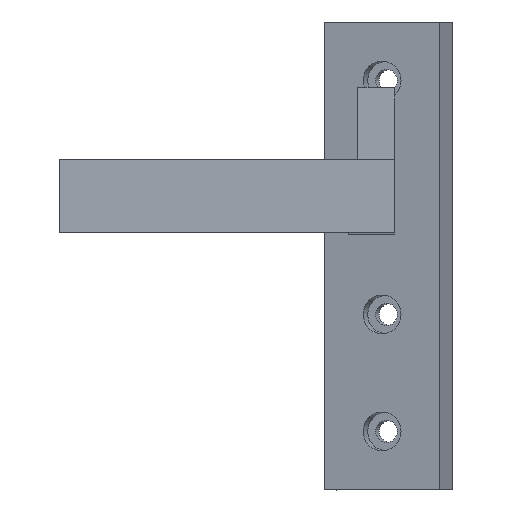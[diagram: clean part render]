
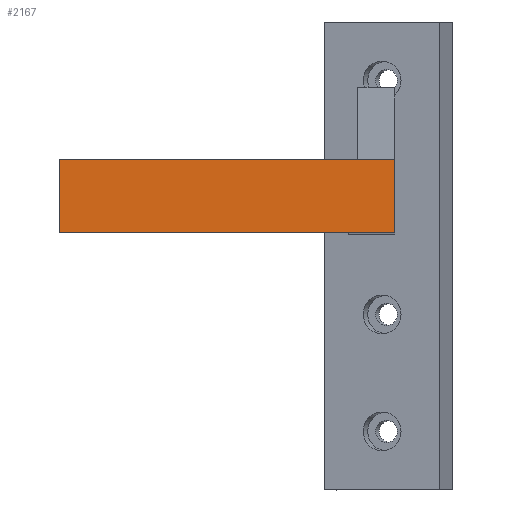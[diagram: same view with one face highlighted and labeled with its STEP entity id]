
A CAD part, top view. The second image highlights one B-rep face of the part: STEP entity #2167.
In plain terms, the highlighted planar face has unit normal (0, 0, 1).
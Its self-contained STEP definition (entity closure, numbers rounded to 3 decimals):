
#632 = PLANE('',#633);
#633 = AXIS2_PLACEMENT_3D('',#634,#635,#636);
#634 = CARTESIAN_POINT('',(0.5,26.2,-180.2));
#635 = DIRECTION('',(0.,1.,0.));
#636 = DIRECTION('',(0.,0.,1.));
#684 = PLANE('',#685);
#685 = AXIS2_PLACEMENT_3D('',#686,#687,#688);
#686 = CARTESIAN_POINT('',(0.5,42.2,-180.2));
#687 = DIRECTION('',(0.,1.,0.));
#688 = DIRECTION('',(0.,0.,1.));
#708 = PLANE('',#709);
#709 = AXIS2_PLACEMENT_3D('',#710,#711,#712);
#710 = CARTESIAN_POINT('',(10.5,26.2,-180.2));
#711 = DIRECTION('',(1.,0.,0.));
#712 = DIRECTION('',(0.,0.,1.));
#1088 = VERTEX_POINT('',#1089);
#1089 = CARTESIAN_POINT('',(10.5,26.2,21.675));
#1331 = VERTEX_POINT('',#1332);
#1332 = CARTESIAN_POINT('',(-62.364,26.2,
    21.675));
#1346 = PLANE('',#1347);
#1347 = AXIS2_PLACEMENT_3D('',#1348,#1349,#1350);
#1348 = CARTESIAN_POINT('',(-62.364,26.2,
    17.675));
#1349 = DIRECTION('',(1.,0.,0.));
#1350 = DIRECTION('',(0.,0.,1.));
#1358 = EDGE_CURVE('',#1088,#1331,#1359,.T.);
#1359 = SURFACE_CURVE('',#1360,(#1364,#1371),.PCURVE_S1.);
#1360 = LINE('',#1361,#1362);
#1361 = CARTESIAN_POINT('',(10.5,26.2,21.675));
#1362 = VECTOR('',#1363,1.);
#1363 = DIRECTION('',(-1.,0.,0.));
#1364 = PCURVE('',#632,#1365);
#1365 = DEFINITIONAL_REPRESENTATION('',(#1366),#1370);
#1366 = LINE('',#1367,#1368);
#1367 = CARTESIAN_POINT('',(201.875,10.));
#1368 = VECTOR('',#1369,1.);
#1369 = DIRECTION('',(0.,-1.));
#1370 = ( GEOMETRIC_REPRESENTATION_CONTEXT(2) 
PARAMETRIC_REPRESENTATION_CONTEXT() REPRESENTATION_CONTEXT('2D SPACE',''
  ) );
#1371 = PCURVE('',#1372,#1377);
#1372 = PLANE('',#1373);
#1373 = AXIS2_PLACEMENT_3D('',#1374,#1375,#1376);
#1374 = CARTESIAN_POINT('',(0.5,26.2,21.675));
#1375 = DIRECTION('',(0.,0.,1.));
#1376 = DIRECTION('',(1.,0.,0.));
#1377 = DEFINITIONAL_REPRESENTATION('',(#1378),#1382);
#1378 = LINE('',#1379,#1380);
#1379 = CARTESIAN_POINT('',(10.,0.));
#1380 = VECTOR('',#1381,1.);
#1381 = DIRECTION('',(-1.,0.));
#1382 = ( GEOMETRIC_REPRESENTATION_CONTEXT(2) 
PARAMETRIC_REPRESENTATION_CONTEXT() REPRESENTATION_CONTEXT('2D SPACE',''
  ) );
#1390 = VERTEX_POINT('',#1391);
#1391 = CARTESIAN_POINT('',(10.5,42.2,21.675));
#1412 = EDGE_CURVE('',#1088,#1390,#1413,.T.);
#1413 = SURFACE_CURVE('',#1414,(#1418,#1425),.PCURVE_S1.);
#1414 = LINE('',#1415,#1416);
#1415 = CARTESIAN_POINT('',(10.5,26.2,21.675));
#1416 = VECTOR('',#1417,1.);
#1417 = DIRECTION('',(0.,1.,0.));
#1418 = PCURVE('',#708,#1419);
#1419 = DEFINITIONAL_REPRESENTATION('',(#1420),#1424);
#1420 = LINE('',#1421,#1422);
#1421 = CARTESIAN_POINT('',(201.875,0.));
#1422 = VECTOR('',#1423,1.);
#1423 = DIRECTION('',(0.,-1.));
#1424 = ( GEOMETRIC_REPRESENTATION_CONTEXT(2) 
PARAMETRIC_REPRESENTATION_CONTEXT() REPRESENTATION_CONTEXT('2D SPACE',''
  ) );
#1425 = PCURVE('',#1372,#1426);
#1426 = DEFINITIONAL_REPRESENTATION('',(#1427),#1431);
#1427 = LINE('',#1428,#1429);
#1428 = CARTESIAN_POINT('',(10.,0.));
#1429 = VECTOR('',#1430,1.);
#1430 = DIRECTION('',(0.,1.));
#1431 = ( GEOMETRIC_REPRESENTATION_CONTEXT(2) 
PARAMETRIC_REPRESENTATION_CONTEXT() REPRESENTATION_CONTEXT('2D SPACE',''
  ) );
#1800 = VERTEX_POINT('',#1801);
#1801 = CARTESIAN_POINT('',(-62.364,42.2,
    21.675));
#1822 = EDGE_CURVE('',#1800,#1390,#1823,.T.);
#1823 = SURFACE_CURVE('',#1824,(#1828,#1835),.PCURVE_S1.);
#1824 = LINE('',#1825,#1826);
#1825 = CARTESIAN_POINT('',(-62.364,42.2,
    21.675));
#1826 = VECTOR('',#1827,1.);
#1827 = DIRECTION('',(1.,0.,0.));
#1828 = PCURVE('',#684,#1829);
#1829 = DEFINITIONAL_REPRESENTATION('',(#1830),#1834);
#1830 = LINE('',#1831,#1832);
#1831 = CARTESIAN_POINT('',(201.875,-62.864));
#1832 = VECTOR('',#1833,1.);
#1833 = DIRECTION('',(0.,1.));
#1834 = ( GEOMETRIC_REPRESENTATION_CONTEXT(2) 
PARAMETRIC_REPRESENTATION_CONTEXT() REPRESENTATION_CONTEXT('2D SPACE',''
  ) );
#1835 = PCURVE('',#1372,#1836);
#1836 = DEFINITIONAL_REPRESENTATION('',(#1837),#1841);
#1837 = LINE('',#1838,#1839);
#1838 = CARTESIAN_POINT('',(-62.864,16.));
#1839 = VECTOR('',#1840,1.);
#1840 = DIRECTION('',(1.,0.));
#1841 = ( GEOMETRIC_REPRESENTATION_CONTEXT(2) 
PARAMETRIC_REPRESENTATION_CONTEXT() REPRESENTATION_CONTEXT('2D SPACE',''
  ) );
#2167 = ADVANCED_FACE('',(#2168),#1372,.T.);
#2168 = FACE_BOUND('',#2169,.T.);
#2169 = EDGE_LOOP('',(#2170,#2171,#2192,#2193));
#2170 = ORIENTED_EDGE('',*,*,#1822,.F.);
#2171 = ORIENTED_EDGE('',*,*,#2172,.F.);
#2172 = EDGE_CURVE('',#1331,#1800,#2173,.T.);
#2173 = SURFACE_CURVE('',#2174,(#2178,#2185),.PCURVE_S1.);
#2174 = LINE('',#2175,#2176);
#2175 = CARTESIAN_POINT('',(-62.364,26.2,
    21.675));
#2176 = VECTOR('',#2177,1.);
#2177 = DIRECTION('',(0.,1.,0.));
#2178 = PCURVE('',#1372,#2179);
#2179 = DEFINITIONAL_REPRESENTATION('',(#2180),#2184);
#2180 = LINE('',#2181,#2182);
#2181 = CARTESIAN_POINT('',(-62.864,0.));
#2182 = VECTOR('',#2183,1.);
#2183 = DIRECTION('',(0.,1.));
#2184 = ( GEOMETRIC_REPRESENTATION_CONTEXT(2) 
PARAMETRIC_REPRESENTATION_CONTEXT() REPRESENTATION_CONTEXT('2D SPACE',''
  ) );
#2185 = PCURVE('',#1346,#2186);
#2186 = DEFINITIONAL_REPRESENTATION('',(#2187),#2191);
#2187 = LINE('',#2188,#2189);
#2188 = CARTESIAN_POINT('',(4.,0.));
#2189 = VECTOR('',#2190,1.);
#2190 = DIRECTION('',(0.,-1.));
#2191 = ( GEOMETRIC_REPRESENTATION_CONTEXT(2) 
PARAMETRIC_REPRESENTATION_CONTEXT() REPRESENTATION_CONTEXT('2D SPACE',''
  ) );
#2192 = ORIENTED_EDGE('',*,*,#1358,.F.);
#2193 = ORIENTED_EDGE('',*,*,#1412,.T.);
